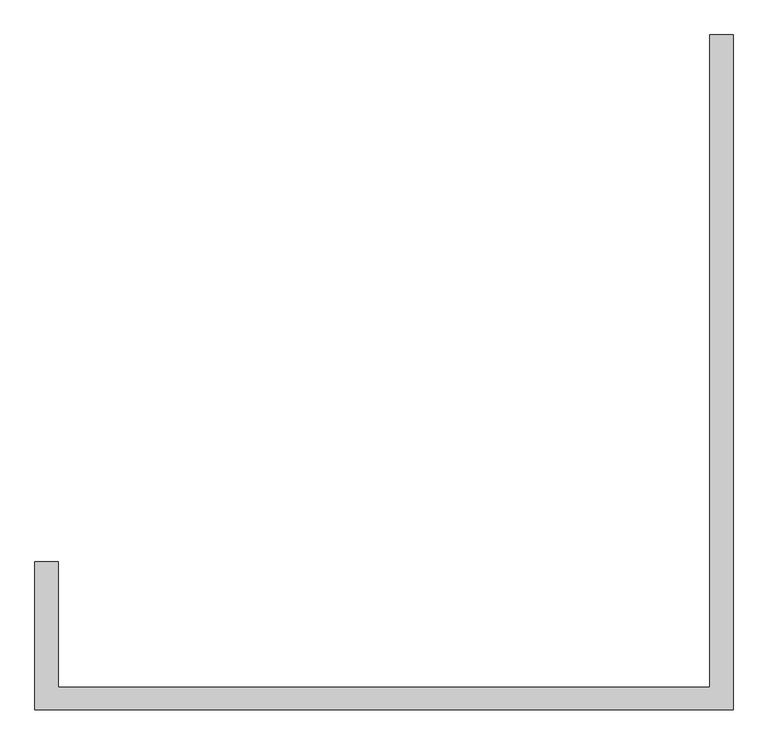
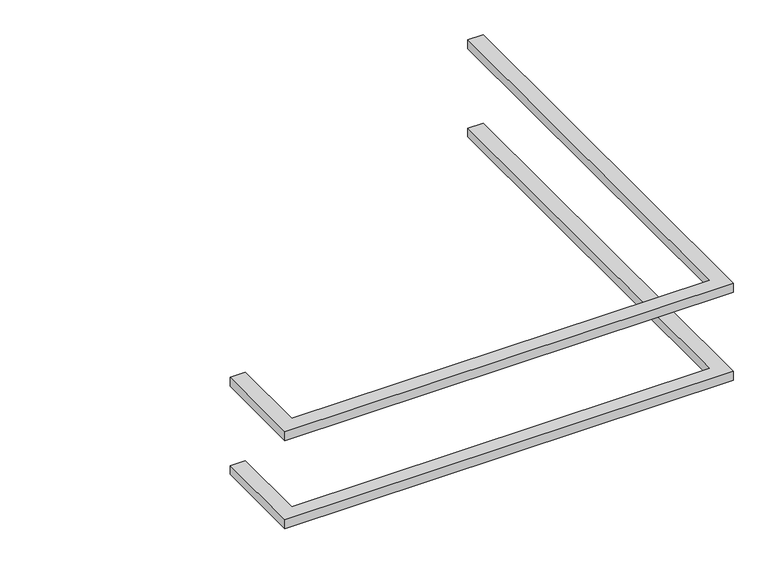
"""IFC4 building model written with IfcOpenShell, lengths in millimetres: proxy geometry, 专用设备 1 : 专用设备 1."""

from ifc_helpers import new_model, si_unit, frame, origin, place, context, project, spatial, polyline, outline, extrude, source, transform, mapped, element, save


def specialty_equipment_79bc4128(model_context):
    return source(origin(), model_context, "Body", "SweptSolid", [
        extrude(outline(polyline([(-16735.9782681, -15321.0286905), (-10075.9782681, -15321.0286905), (-10075.9782681, -8651.0286905), (-9835.9782681, -8651.0286905), (-9835.9782681, -15551.0286905), (-16975.9782681, -15551.0286905), (-16975.9782681, -14041.0286905), (-16735.9782681, -14041.0286905), (-16735.9782681, -15321.0286905)])), frame((0.0, 0.0, 5735.0), z_axis=(0.0, 0.0, 1.0), x_axis=(1.0, 0.0, 0.0)), (0.0, 0.0, 1.0), 150.0),
        extrude(outline(polyline([(-16735.9782681, -15321.0286905), (-10075.9782681, -15321.0286905), (-10075.9782681, -8651.0286905), (-9835.9782681, -8651.0286905), (-9835.9782681, -15551.0286905), (-16975.9782681, -15551.0286905), (-16975.9782681, -14041.0286905), (-16735.9782681, -14041.0286905), (-16735.9782681, -15321.0286905)])), frame((0.0, 0.0, 4250.0), z_axis=(0.0, 0.0, 1.0), x_axis=(1.0, 0.0, 0.0)), (0.0, 0.0, 1.0), 150.0),
    ])


if __name__ == "__main__":
    model = new_model("IFC4")
    model_context = context("Model", 3, world=origin())
    ifc_project = project(units=[si_unit("LENGTHUNIT", "METRE", prefix="MILLI")], contexts=[model_context])
    site = spatial("IfcSite", under=ifc_project)
    building = spatial("IfcBuilding", under=site)
    placement = place(None, origin())
    specialty_equipment_shape = specialty_equipment_79bc4128(model_context)
    element("IfcBuildingElementProxy", 1, Name="专用设备 1 : 专用设备 1", ObjectType="专用设备 1 : 专用设备 1", at=placement, inside=building, context=model_context, shape_type="MappedRepresentation", body=[
        mapped(specialty_equipment_shape, transform((0.0, 0.0, 0.0), x_axis=(1.0, 0.0, 0.0), y_axis=(0.0, 1.0, 0.0), z_axis=(0.0, 0.0, 1.0))),
    ])
    save(model, "model.ifc")
